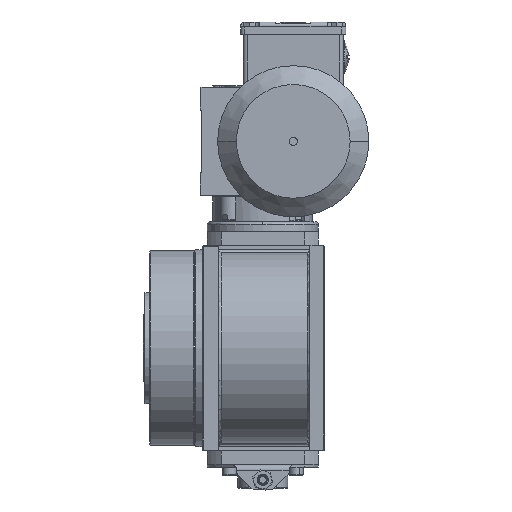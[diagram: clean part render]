
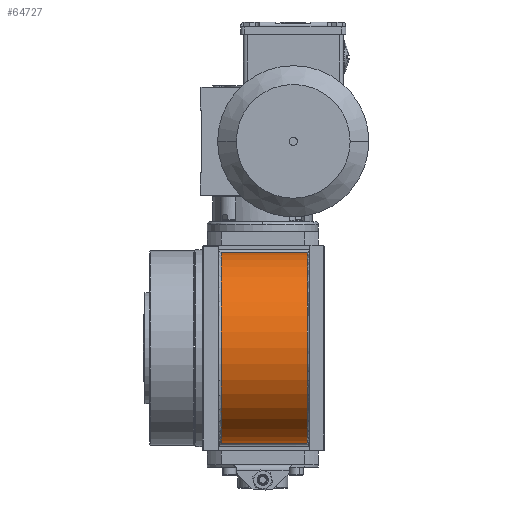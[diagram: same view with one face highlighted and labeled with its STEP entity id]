
A CAD part, left-side view. The second image highlights one B-rep face of the part: STEP entity #64727.
In plain terms, the highlighted cylindrical face has radius 69 mm (diameter 138 mm), a partial arc.
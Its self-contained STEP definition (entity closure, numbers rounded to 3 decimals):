
#203 = VERTEX_POINT ( 'NONE', #1644 ) ;
#1644 = CARTESIAN_POINT ( 'NONE',  ( -42.511, 8.762, -28.281 ) ) ;
#6390 = VERTEX_POINT ( 'NONE', #53775 ) ;
#9474 = CARTESIAN_POINT ( 'NONE',  ( -42.511, 10.762, 109.5 ) ) ;
#10140 = ORIENTED_EDGE ( 'NONE', *, *, #12060, .T. ) ;
#11429 = DIRECTION ( 'NONE',  ( 0., 0., 1. ) ) ;
#12060 = EDGE_CURVE ( 'NONE', #203, #28674, #36736, .T. ) ;
#13265 = CARTESIAN_POINT ( 'NONE',  ( -42.511, 10.762, -28.281 ) ) ;
#14635 = AXIS2_PLACEMENT_3D ( 'NONE', #22350, #40780, #40037 ) ;
#15475 = DIRECTION ( 'NONE',  ( 0., 0., -1. ) ) ;
#18242 = DIRECTION ( 'NONE',  ( 0., -1., 0. ) ) ;
#20101 = ORIENTED_EDGE ( 'NONE', *, *, #25037, .T. ) ;
#22350 = CARTESIAN_POINT ( 'NONE',  ( -38.624, -53.238, 40.609 ) ) ;
#25037 = EDGE_CURVE ( 'NONE', #65747, #6390, #34103, .T. ) ;
#28674 = VERTEX_POINT ( 'NONE', #52303 ) ;
#32982 = DIRECTION ( 'NONE',  ( 0., 1., 0. ) ) ;
#34103 = LINE ( 'NONE', #9474, #67868 ) ;
#34106 = AXIS2_PLACEMENT_3D ( 'NONE', #55436, #60820, #15475 ) ;
#36273 = VECTOR ( 'NONE', #18242, 1000. ) ;
#36297 = CYLINDRICAL_SURFACE ( 'NONE', #34106, 69. ) ;
#36736 = LINE ( 'NONE', #13265, #36273 ) ;
#36833 = ORIENTED_EDGE ( 'NONE', *, *, #40570, .T. ) ;
#40037 = DIRECTION ( 'NONE',  ( 0., 0., 1. ) ) ;
#40570 = EDGE_CURVE ( 'NONE', #28674, #65747, #63712, .T. ) ;
#40636 = CARTESIAN_POINT ( 'NONE',  ( -38.624, 8.762, 40.609 ) ) ;
#40780 = DIRECTION ( 'NONE',  ( 0., 1., 0. ) ) ;
#45095 = CARTESIAN_POINT ( 'NONE',  ( -42.511, -53.238, 109.5 ) ) ;
#49112 = EDGE_CURVE ( 'NONE', #6390, #203, #67665, .T. ) ;
#51747 = AXIS2_PLACEMENT_3D ( 'NONE', #40636, #65196, #11429 ) ;
#52303 = CARTESIAN_POINT ( 'NONE',  ( -42.511, -53.238, -28.281 ) ) ;
#53775 = CARTESIAN_POINT ( 'NONE',  ( -42.511, 8.762, 109.5 ) ) ;
#55436 = CARTESIAN_POINT ( 'NONE',  ( -38.624, 10.762, 40.609 ) ) ;
#55571 = EDGE_LOOP ( 'NONE', ( #36833, #20101, #59074, #10140 ) ) ;
#59074 = ORIENTED_EDGE ( 'NONE', *, *, #49112, .T. ) ;
#60820 = DIRECTION ( 'NONE',  ( 0., -1., 0. ) ) ;
#63712 = CIRCLE ( 'NONE', #14635, 69. ) ;
#64727 = ADVANCED_FACE ( 'NONE', ( #71565 ), #36297, .T. ) ;
#65196 = DIRECTION ( 'NONE',  ( 0., -1., 0. ) ) ;
#65747 = VERTEX_POINT ( 'NONE', #45095 ) ;
#67665 = CIRCLE ( 'NONE', #51747, 69. ) ;
#67868 = VECTOR ( 'NONE', #32982, 1000. ) ;
#71565 = FACE_OUTER_BOUND ( 'NONE', #55571, .T. ) ;
